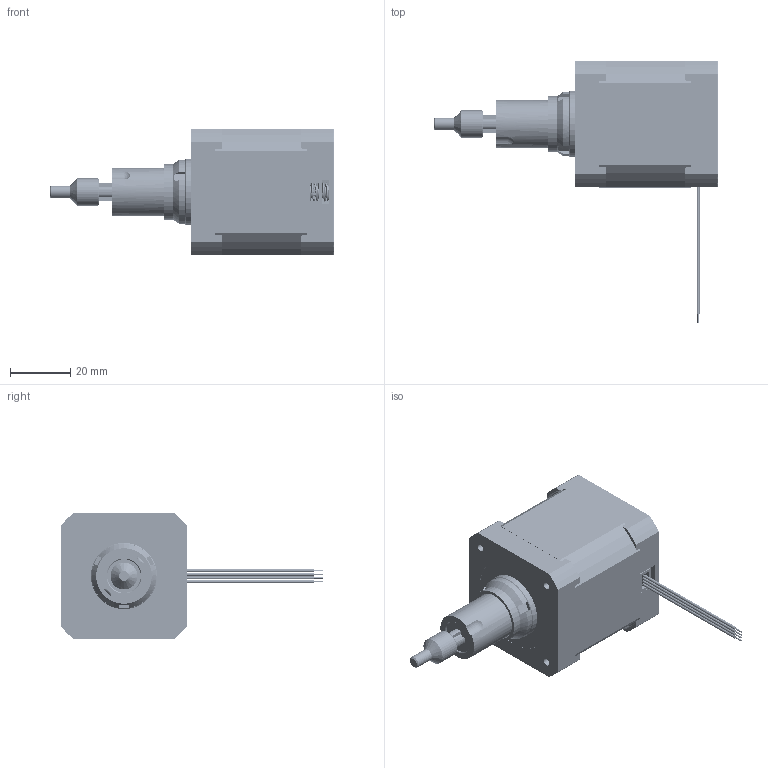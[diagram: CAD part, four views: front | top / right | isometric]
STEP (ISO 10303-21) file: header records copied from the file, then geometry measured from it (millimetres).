
FILE_DESCRIPTION((''),'2;1');
FILE_NAME('42CC4X-X-XXX-XXX_ASM','2023-03-24T',('guangyan.zhou'),(''),'CREO PARAMETRIC BY PTC INC, 2017300','CREO PARAMETRIC BY PTC INC, 2017300','');
FILE_SCHEMA(('CONFIG_CONTROL_DESIGN'));
Products named in the file (150): EB42-1003_AF0; ST42-1003_AF61; ST42-1003_AF62; ST42-1003_AF63; ST42-1003_AF64; ST42-1003_AF65; ST42-1003_AF66; ST42-1003_AF67; ST42-1003_AF68; ST42-1003_AF69; ST42-1003_AF70; ST42-1003_AF71; ST42-1003_AF72; ST42-1003_AF73; ST42-1003_AF74; ST42-1003_AF75; ST42-1003_AF76; ST42-1003_AF77; ST42-1003_AF78; ST42-1003_AF79; ST42-1003_AF80; ST42-1003_AF81; ST42-1003_AF82; ST42-1003_AF83; ST42-1003_AF84; ST42-1003_AF85; ST42-1003_AF86; ST42-1003_AF87; ST42-1003_AF88; ST42-1003_AF89; ST42-1003_AF90; ST42-1003_AF91; ST42-1003_AF92; ST42-1003_AF93; ST42-1003_AF94; ST42-1003_AF95; ST42-1003_AF96; ST42-1003_AF97; ST42-1003_AF98; ST42-1003_AF99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
Assembly tree (151 placements, depth 4):
  42CC4X-X-XXX-XXX_ASM
    EB42-1003_AF0
    ST42-1004_AF0_ASM
      ST42-1005_AF0_ASM
        ST42-1003_AF61
        ST42-1003_AF62
        ST42-1003_AF63
        ST42-1003_AF64
        ST42-1003_AF65
        ST42-1003_AF66
        ST42-1003_AF67
        ST42-1003_AF68
        ST42-1003_AF69
        ST42-1003_AF70
        ST42-1003_AF71
        ST42-1003_AF72
        ST42-1003_AF73
        ST42-1003_AF74
        ST42-1003_AF75
        ST42-1003_AF76
        ST42-1003_AF77
        ST42-1003_AF78
        ST42-1003_AF79
        ST42-1003_AF80
        ST42-1003_AF81
        ST42-1003_AF82
        ST42-1003_AF83
        ST42-1003_AF84
        ST42-1003_AF85
        ST42-1003_AF86
        ST42-1003_AF87
        ST42-1003_AF88
        ST42-1003_AF89
        ST42-1003_AF90
        ST42-1003_AF91
        ST42-1003_AF92
        ST42-1003_AF93
        ST42-1003_AF94
        ST42-1003_AF95
        ST42-1003_AF96
        ST42-1003_AF97
        ST42-1003_AF98
        ST42-1003_AF99
        ST42-1003_AF100
        ST42-1003_AF101
        ST42-1003_AF102
        ST42-1003_AF103
        ST42-1003_AF104
        ST42-1003_AF105
        ST42-1003_AF106
        ST42-1003_AF107
        ST42-1003_AF108
        ST42-1003_AF109
        ST42-1003_AF110
        ST42-1003_AF111
        ST42-1003_AF112
        ST42-1003_AF113
        ST42-1003_AF114
        ST42-1003_AF115
        ST42-1003_AF116
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Bounding box: 94.7 x 87.45 x 42.2 mm (x, y, z)
Volume: 30452.8 mm3; surface area: 82782.3 mm2
Topology: 117 solids, 133 shells, 6644 faces, 18936 edges, 12589 vertices
Faces by surface type: cylinder 3122, plane 2651, extrusion 727, bspline 70, cone 32, torus 32, sphere 10
Entity records: 248561 total; most frequent: CARTESIAN_POINT 66267, ORIENTED_EDGE 37802, DIRECTION 36577, EDGE_CURVE 18930, VERTEX_POINT 12589, AXIS2_PLACEMENT_3D 12563, VECTOR 11451, LINE 10724
